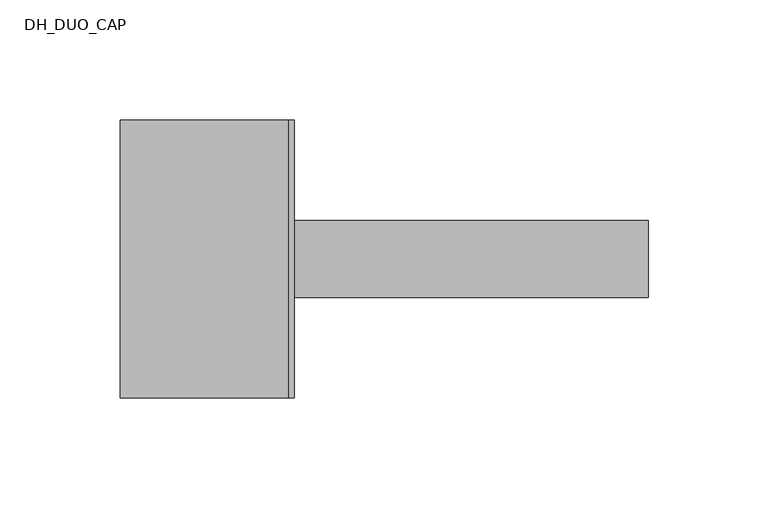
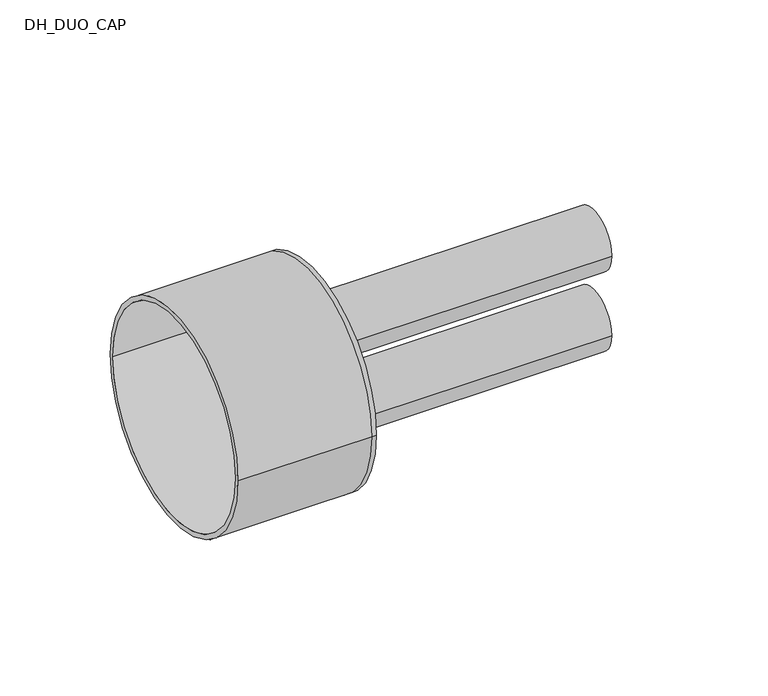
"""IFC4 building model written with IfcOpenShell, lengths in millimetres: pipe fitting geometry, DH_DUO_CAP : RAUTHERMEX DUO 7.4 Heating - Solid Cap."""

from ifc_helpers import new_model, si_unit, point, frame, frame_2d, origin, place, context, project, spatial, polyline, circle_curve, trimmed, segment, composite_curve, outline, extrude, source, transform, mapped, element, save
from ifc_brep_helpers import plane_surface, cylinder_surface, revolved_surface, advanced_brep


def dh_duo_cap_e54493b7(model_context):
    return source(origin(), model_context, "Body", "SolidModel", [
        extrude(outline(composite_curve([segment(trimmed(circle_curve(frame_2d((0.0, -22.0)), 16.0), [point((-16.0, -22.0))], [point((16.0, -22.0))], False, "CARTESIAN"), True, "CONTINUOUS"), segment(trimmed(circle_curve(frame_2d((0.0, -22.0)), 16.0), [point((16.0, -22.0))], [point((-16.0, -22.0))], False, "CARTESIAN"), True, "CONTINUOUS")], self_intersect=False), holes=[composite_curve([segment(trimmed(circle_curve(frame_2d((0.0, -22.0)), 11.6), [point((-11.6, -22.0))], [point((11.6, -22.0))], True, "CARTESIAN"), True, "CONTINUOUS"), segment(trimmed(circle_curve(frame_2d((0.0, -22.0)), 11.6), [point((11.6, -22.0))], [point((-11.6, -22.0))], True, "CARTESIAN"), True, "CONTINUOUS")], self_intersect=False)]), frame((0.0, 0.0, 0.0), z_axis=(1.0, 0.0, 0.0), x_axis=(0.0, 1.0, 0.0)), (0.0, 0.0, 1.0), 150.0),
        extrude(outline(composite_curve([segment(trimmed(circle_curve(frame_2d((0.0, 22.0)), 16.0), [point((-16.0, 22.0))], [point((16.0, 22.0))], False, "CARTESIAN"), True, "CONTINUOUS"), segment(trimmed(circle_curve(frame_2d((0.0, 22.0)), 16.0), [point((16.0, 22.0))], [point((-16.0, 22.0))], False, "CARTESIAN"), True, "CONTINUOUS")], self_intersect=False), holes=[composite_curve([segment(trimmed(circle_curve(frame_2d((0.0, 22.0)), 11.6), [point((-11.6, 22.0))], [point((11.6, 22.0))], True, "CARTESIAN"), True, "CONTINUOUS"), segment(trimmed(circle_curve(frame_2d((0.0, 22.0)), 11.6), [point((11.6, 22.0))], [point((-11.6, 22.0))], True, "CARTESIAN"), True, "CONTINUOUS")], self_intersect=False)]), frame((0.0, 0.0, 0.0), z_axis=(1.0, 0.0, 0.0), x_axis=(0.0, 1.0, 0.0)), (0.0, 0.0, 1.0), 150.0),
        advanced_brep(
        [(-70.0, -58.0, 0.0), (-70.0, 58.0, 0.0), (-70.0, -55.5, 0.0), (-70.0, 55.5, 0.0), (0.0, -55.5, 0.0), (0.0, 55.5, 0.0), (0.0, -58.0, 0.0), (0.0, 58.0, 0.0), (0.0, 16.0, 22.0), (0.0, -16.0, 22.0), (0.0, 16.0, -22.0), (0.0, -16.0, -22.0), (2.5, -58.0, 0.0), (2.5, 58.0, 0.0), (2.5, -16.0, 22.0), (2.5, 16.0, 22.0), (2.5, -16.0, -22.0), (2.5, 16.0, -22.0)],
        [
            (0, 1, circle_curve(frame((-70.0, 0.0, 0.0), z_axis=(-1.0, 0.0, 0.0), x_axis=(0.0, 1.0, 0.0)), 58.0)),
            (1, 0, circle_curve(frame((-70.0, 0.0, 0.0), z_axis=(-1.0, 0.0, 0.0), x_axis=(0.0, 1.0, 0.0)), 58.0)),
            (2, 3, circle_curve(frame((-70.0, 0.0, 0.0), z_axis=(1.0, 0.0, 0.0), x_axis=(0.0, 1.0, 0.0)), 55.5)),
            (3, 2, circle_curve(frame((-70.0, 0.0, 0.0), z_axis=(1.0, 0.0, 0.0), x_axis=(0.0, 1.0, 0.0)), 55.5)),
            (2, 4),
            (4, 5, circle_curve(frame((0.0, 0.0, 0.0), z_axis=(1.0, 0.0, 0.0), x_axis=(0.0, 1.0, 0.0)), 55.5)),
            (5, 3),
            (5, 4, circle_curve(frame((0.0, 0.0, 0.0), z_axis=(1.0, 0.0, 0.0), x_axis=(0.0, 1.0, 0.0)), 55.5)),
            (0, 6),
            (6, 7, circle_curve(frame((0.0, 0.0, 0.0), z_axis=(-1.0, 0.0, 0.0), x_axis=(0.0, 1.0, 0.0)), 58.0)),
            (7, 1),
            (7, 6, circle_curve(frame((0.0, 0.0, 0.0), z_axis=(-1.0, 0.0, 0.0), x_axis=(0.0, 1.0, 0.0)), 58.0)),
            (8, 9, circle_curve(frame((0.0, 0.0, 22.0), z_axis=(1.0, 0.0, 0.0), x_axis=(0.0, 1.0, 0.0)), 16.0)),
            (9, 8, circle_curve(frame((0.0, 0.0, 22.0), z_axis=(1.0, 0.0, 0.0), x_axis=(0.0, 1.0, 0.0)), 16.0)),
            (10, 11, circle_curve(frame((0.0, 0.0, -22.0), z_axis=(1.0, 0.0, 0.0), x_axis=(0.0, 1.0, 0.0)), 16.0)),
            (11, 10, circle_curve(frame((0.0, 0.0, -22.0), z_axis=(1.0, 0.0, 0.0), x_axis=(0.0, 1.0, 0.0)), 16.0)),
            (12, 13, circle_curve(frame((2.5, 0.0, 0.0), z_axis=(1.0, 0.0, 0.0), x_axis=(0.0, 1.0, 0.0)), 58.0)),
            (13, 12, circle_curve(frame((2.5, 0.0, 0.0), z_axis=(1.0, 0.0, 0.0), x_axis=(0.0, 1.0, 0.0)), 58.0)),
            (14, 15, circle_curve(frame((2.5, 0.0, 22.0), z_axis=(-1.0, 0.0, 0.0), x_axis=(0.0, 1.0, 0.0)), 16.0)),
            (15, 14, circle_curve(frame((2.5, 0.0, 22.0), z_axis=(-1.0, 0.0, 0.0), x_axis=(0.0, 1.0, 0.0)), 16.0)),
            (16, 17, circle_curve(frame((2.5, 0.0, -22.0), z_axis=(-1.0, 0.0, 0.0), x_axis=(0.0, 1.0, 0.0)), 16.0)),
            (17, 16, circle_curve(frame((2.5, 0.0, -22.0), z_axis=(-1.0, 0.0, 0.0), x_axis=(0.0, 1.0, 0.0)), 16.0)),
            (13, 7),
            (6, 12),
            (8, 15),
            (14, 9),
            (10, 17),
            (16, 11),
        ],
        [
            plane_surface(frame((-70.0, 0.0, 0.0), z_axis=(-1.0, 0.0, 0.0), x_axis=(0.0, 0.0, 1.0))),
            revolved_surface(polyline([(0.0, 55.5, 0.0), (-70.0, 55.5, 0.0)]), (-70.0, 0.0, 0.0), (1.0, 0.0, 0.0)),
            cylinder_surface(frame((-70.0, 0.0, 0.0), z_axis=(-1.0, 0.0, 0.0), x_axis=(0.0, 1.0, 0.0)), 58.0),
            plane_surface(frame((0.0, 0.0, 0.0), z_axis=(-1.0, 0.0, 0.0), x_axis=(0.0, 0.0, 1.0))),
            plane_surface(frame((2.5, 0.0, 0.0), z_axis=(1.0, 0.0, 0.0), x_axis=(0.0, 0.0, 1.0))),
            cylinder_surface(frame((0.0, 0.0, 0.0), z_axis=(-1.0, 0.0, 0.0), x_axis=(0.0, 1.0, 0.0)), 58.0),
            revolved_surface(polyline([(0.0, 16.0, 22.0), (2.5, 16.0, 22.0)]), (0.0, 0.0, 22.0), (-1.0, 0.0, 0.0)),
            revolved_surface(polyline([(0.0, 16.0, -22.0), (2.5, 16.0, -22.0)]), (0.0, 0.0, -22.0), (-1.0, 0.0, 0.0)),
        ],
        [
            (0, [[1, 2], [3, 4]]),
            (1, [[-3, 5, 6, 7]]),
            (1, [[-4, -7, 8, -5]]),
            (2, [[-1, 9, 10, 11]]),
            (2, [[-2, -11, 12, -9]]),
            (3, [[-6, -8], [13, 14], [15, 16]]),
            (4, [[17, 18], [19, 20], [21, 22]]),
            (5, [[-18, 23, -10, 24]]),
            (5, [[-17, -24, -12, -23]]),
            (6, [[25, -19, 26, -13]]),
            (6, [[-25, -14, -26, -20]]),
            (7, [[27, -21, 28, -15]]),
            (7, [[-27, -16, -28, -22]]),
        ],
    ),
    ])


if __name__ == "__main__":
    model = new_model("IFC4")
    model_context = context("Model", 3, world=origin())
    ifc_project = project(units=[si_unit("LENGTHUNIT", "METRE", prefix="MILLI")], contexts=[model_context])
    site = spatial("IfcSite", under=ifc_project)
    building = spatial("IfcBuilding", under=site)
    placement = place(None, origin())
    dh_duo_cap_shape = dh_duo_cap_e54493b7(model_context)
    element("IfcPipeFitting", 1, ObjectType="DH_DUO_CAP : RAUTHERMEX DUO 7.4 Heating - Solid Cap", at=placement, inside=building, context=model_context, shape_type="MappedRepresentation", body=[
        mapped(dh_duo_cap_shape, transform((0.0, 0.0, 0.0), x_axis=(1.0, 0.0, 0.0), y_axis=(0.0, 1.0, 0.0), z_axis=(0.0, 0.0, 1.0))),
    ])
    save(model, "model.ifc")
